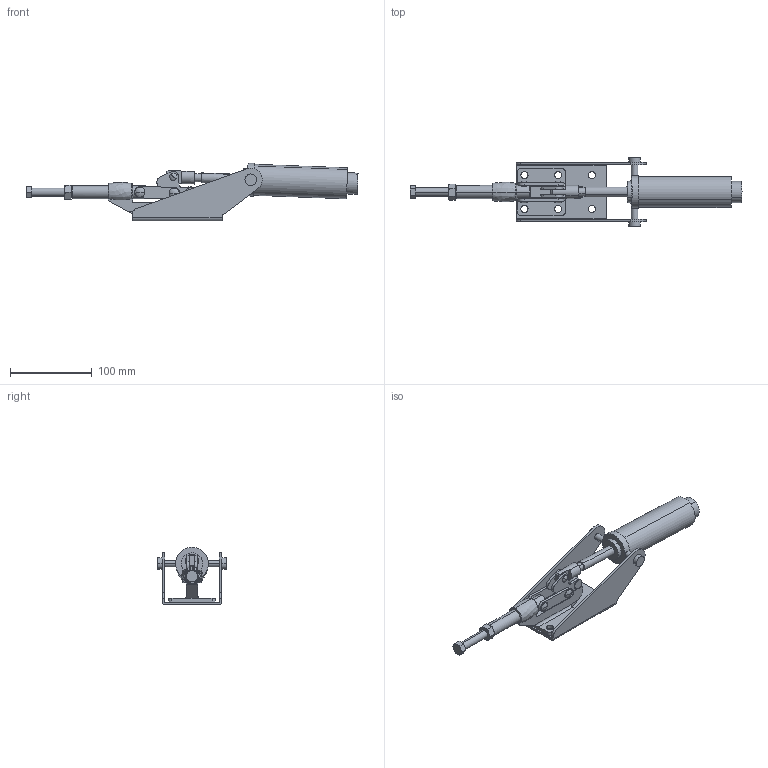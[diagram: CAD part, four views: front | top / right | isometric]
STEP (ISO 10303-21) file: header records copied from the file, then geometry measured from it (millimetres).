
FILE_DESCRIPTION(('CATIA V5 STEP Exchange'),'2;1');
FILE_NAME('E:\model-V5\STP\KJF-AR-33.stp','2005-07-25T06:44:48+00:00',('none'),('none'),'CATIA Version 5 Release 14 (IN-10)','CATIA V5 STEP AP203','none');
FILE_SCHEMA(('CONFIG_CONTROL_DESIGN'));
Length unit declared in the file: millimetre
Products named in the file (1): KJF-AR-33
Bounding box: 406.54 x 84 x 70.44 mm (x, y, z)
Volume: 305124.8 mm3; surface area: 93714.4 mm2
Topology: 8 solids, 9 shells, 256 faces, 642 edges, 416 vertices
Faces by surface type: cylinder 111, plane 101, cone 26, sphere 12, torus 4, bspline 2
Entity records: 7635 total; most frequent: CARTESIAN_POINT 1943, ORIENTED_EDGE 1256, DIRECTION 914, EDGE_CURVE 628, AXIS2_PLACEMENT_3D 444, VERTEX_POINT 416, EDGE_LOOP 308, VECTOR 297
